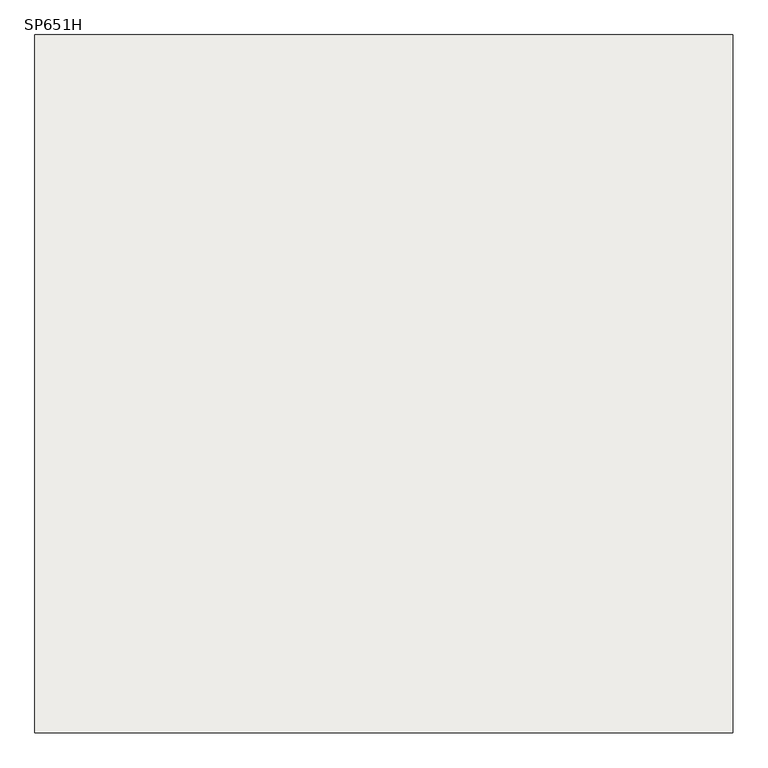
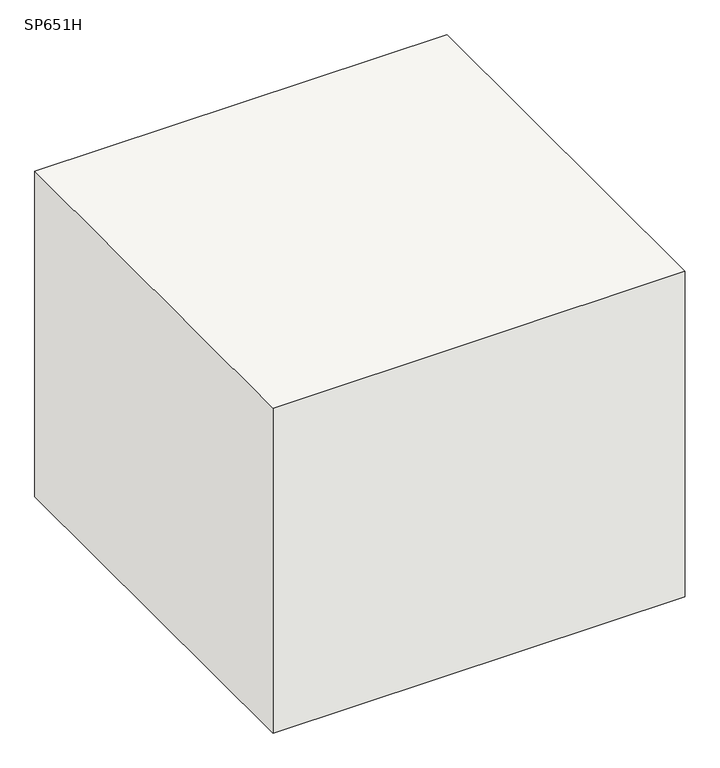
"""IFC4 building model written with IfcOpenShell, lengths in millimetres: slab geometry, 柱形_SP : SP651H."""

from ifc_helpers import new_model, si_unit, frame, origin, place, context, project, spatial, polyline, outline, extrude, source, transform, mapped, element, save


def sp651h_9057769a(model_context):
    return source(origin(), model_context, "Body", "SweptSolid", [
        extrude(outline(polyline([(600.0, 600.0), (600.0, -600.0), (-600.0, -600.0), (-600.0, 600.0), (600.0, 600.0)])), frame((0.0, 0.0, -1000.0), z_axis=(0.0, 0.0, 1.0), x_axis=(1.0, 0.0, 0.0)), (0.0, 0.0, 1.0), 1000.0),
    ])


if __name__ == "__main__":
    model = new_model("IFC4")
    model_context = context("Model", 3, world=origin())
    ifc_project = project(units=[si_unit("LENGTHUNIT", "METRE", prefix="MILLI")], contexts=[model_context])
    site = spatial("IfcSite", under=ifc_project)
    building = spatial("IfcBuilding", under=site)
    placement = place(None, origin())
    sp651h_shape = sp651h_9057769a(model_context)
    element("IfcSlab", 1, ObjectType="柱形_SP : SP651H", at=placement, inside=building, context=model_context, shape_type="MappedRepresentation", body=[
        mapped(sp651h_shape, transform((0.0, 0.0, 0.0), x_axis=(1.0, 0.0, 0.0), y_axis=(0.0, 1.0, 0.0), z_axis=(0.0, 0.0, 1.0))),
    ])
    save(model, "model.ifc")
